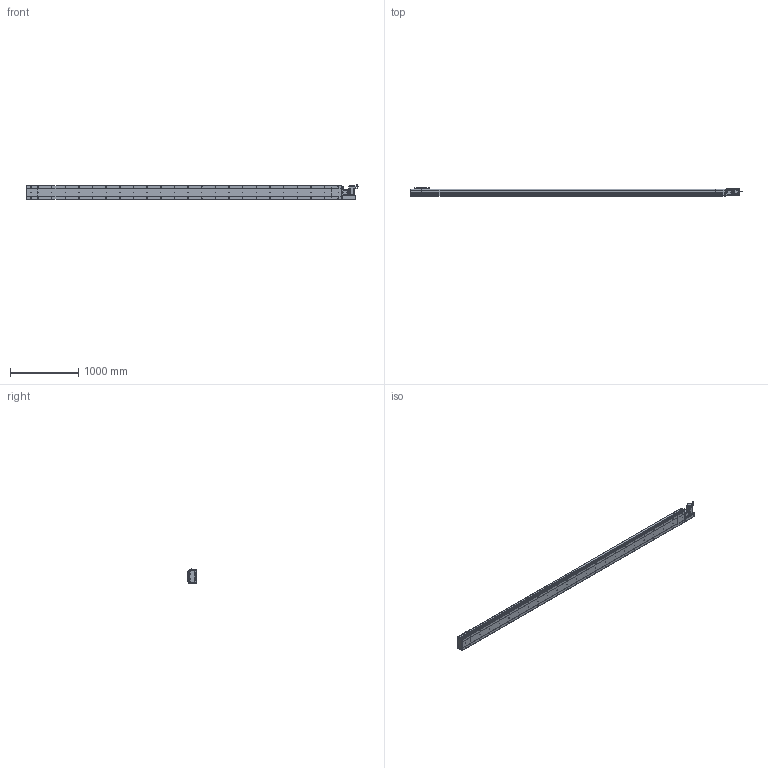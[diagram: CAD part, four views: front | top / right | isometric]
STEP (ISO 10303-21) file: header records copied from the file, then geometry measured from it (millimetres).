
FILE_DESCRIPTION (( 'STEP AP214' ), '1' );
FILE_NAME ('D20 CBH RH S4300.STEP', '2010-06-30T11:31:41', ( 'Conseil Régional Haute-Normandie' ), ( 'Conseil Régional Haute-Normandie' ), 'SwSTEP 2.0', 'SolidWorks 2010', '' );
FILE_SCHEMA (( 'AUTOMOTIVE_DESIGN' ));
Length unit declared in the file: millimetre
Products named in the file (31): Glissiere_Default; Corp D20 S4300_Default; Corp S4300_Default; Plaque de Bout Tail D20_Default; Chariot D20_Default; vis M5 L15_Default; Plaque De Serrage D20_Default; vis M5 L47_Default; vis M5 L30_Default; Conecteur_Default; Conecteur2_Default; ecrou_Default; Cache Support Moteur RH_Default; Couvercle S4300_Default; Corp Tail D20+100_Default; Couvercle_Default; Support Chariot D20_Default; Tail D20+100_Default; codeur 90BLDC125-640; corps 90BLDC125A-640; D20 CBH RH S4300; Head D20 RH_Default; Couvercle RH_Default; Corp Tail D20 RH_Default; Support moteur RH_Default; Rondelle Cache D20 RH_Default; Plaque De Serrage D20 RH_Default; Plaque de Bout Head D20 RH_Default; avant 90BLDC125A-640; Moteur motionking 90BLDC125A-640
Assembly tree (68 placements, depth 4):
  D20 CBH RH S4300
    Tail D20+100_Default
      vis M5 L15_Default  x6
      Plaque De Serrage D20_Default
      Plaque de Bout Tail D20_Default
      Couvercle_Default
      Corp Tail D20+100_Default
    Chariot D20_Default
      vis M5 L15_Default  x8
      Glissiere_Default
      Support Chariot D20_Default
      Chariot D20_Default
    Head D20 RH_Default
      vis M5 L15_Default  x14
      Rondelle Cache D20 RH_Default  x3
      vis M5 L47_Default  x4
      Corp Tail D20 RH_Default
      ecrou_Default  x4
      Cache Support Moteur RH_Default
      Couvercle RH_Default
      vis M5 L30_Default  x4
      Moteur motionking 90BLDC125A-640
        Conecteur2_Default
        corps 90BLDC125A-640
        avant 90BLDC125A-640
        codeur 90BLDC125-640
        Conecteur_Default
      Support moteur RH_Default
      Plaque De Serrage D20 RH_Default
      Plaque de Bout Head D20 RH_Default
    Corp D20 S4300_Default
      Couvercle S4300_Default
      Corp S4300_Default
Bounding box: 4865.45 x 119.5 x 229.7 mm (x, y, z)
Volume: 31454058.2 mm3; surface area: 5980519.9 mm2
Topology: 105 solids, 105 shells, 3928 faces, 9732 edges, 6322 vertices
Faces by surface type: plane 2167, bspline 806, cylinder 784, torus 95, cone 72, sphere 4
Entity records: 162470 total; most frequent: CARTESIAN_POINT 82814, ORIENTED_EDGE 15732, DIRECTION 12214, EDGE_CURVE 7866, VERTEX_POINT 5206, VECTOR 5026, LINE 5026, AXIS2_PLACEMENT_3D 3594
